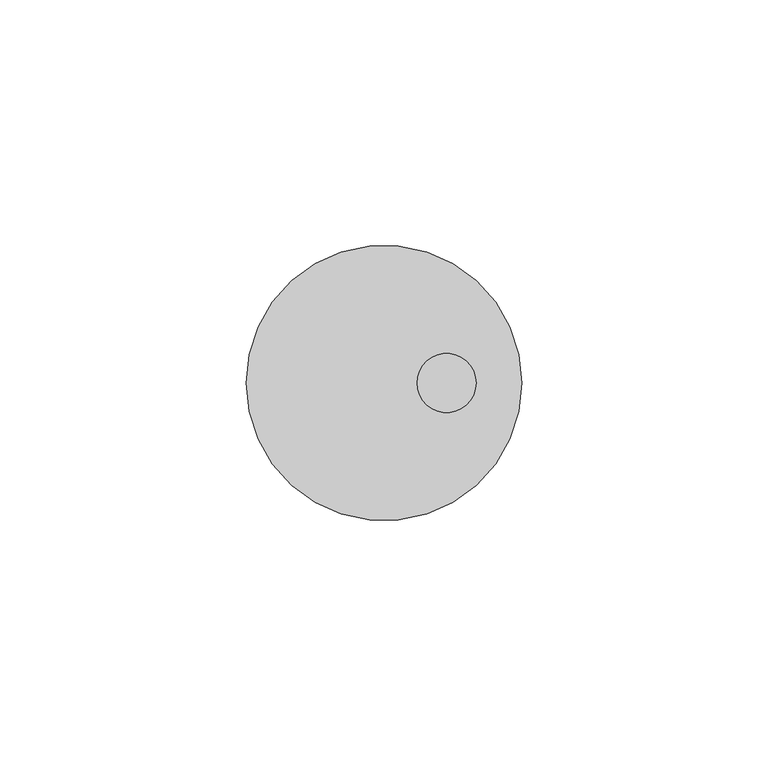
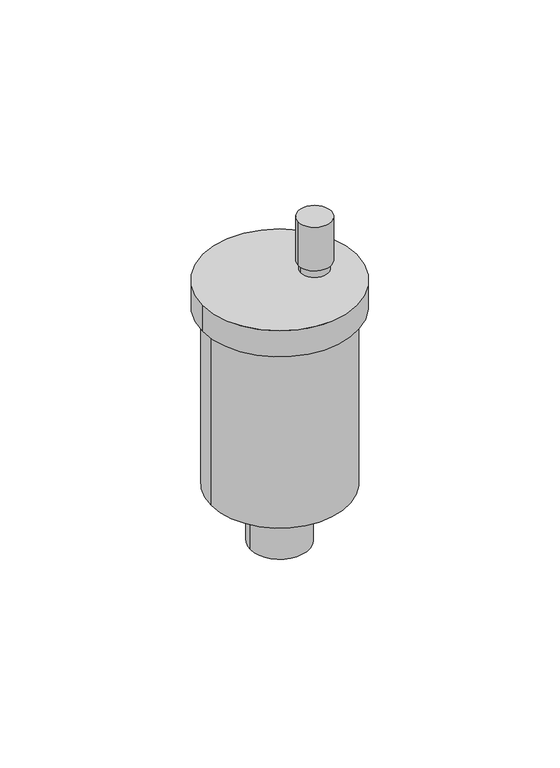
"""IFC4 building model written with IfcOpenShell, lengths in millimetres: valve geometry, 400_56_KOMF_Vlotterontluchter : 400_56_KOMF_Vlotterontluchter."""

from ifc_helpers import new_model, si_unit, point, frame, frame_2d, origin, origin_with_axes, origin_2d, place, context, project, spatial, circle_curve, trimmed, segment, composite_curve, outline, extrude, source, transform, mapped, element, save


def valve_2dd8f752(model_context):
    return source(origin(), model_context, "Body", "SweptSolid", [
        extrude(outline(composite_curve([segment(trimmed(circle_curve(frame_2d((12.7059589, 0.0)), 5.0), [point((7.7059589, 0.0))], [point((17.7059589, 0.0))], False, "CARTESIAN"), True, "CONTINUOUS"), segment(trimmed(circle_curve(frame_2d((12.7059589, 0.0)), 5.0), [point((17.7059589, 0.0))], [point((7.7059589, 0.0))], False, "CARTESIAN"), True, "CONTINUOUS")], self_intersect=False)), frame((0.0, 0.0, 100.0), z_axis=(0.0, 0.0, 1.0), x_axis=(1.0, 0.0, 0.0)), (0.0, 0.0, 1.0), 3.238022),
        extrude(outline(composite_curve([segment(trimmed(circle_curve(frame_2d((12.7059589, 0.0)), 6.0), [point((6.7059589, 0.0))], [point((18.7059589, 0.0))], False, "CARTESIAN"), True, "CONTINUOUS"), segment(trimmed(circle_curve(frame_2d((12.7059589, 0.0)), 6.0), [point((18.7059589, 0.0))], [point((6.7059589, 0.0))], False, "CARTESIAN"), True, "CONTINUOUS")], self_intersect=False)), frame((0.0, 0.0, 103.238022), z_axis=(0.0, 0.0, 1.0), x_axis=(1.0, 0.0, 0.0)), (0.0, 0.0, 1.0), 16.761978),
        extrude(outline(composite_curve([segment(trimmed(circle_curve(origin_2d(), 28.0), [point((-28.0, 0.0))], [point((28.0, 0.0))], False, "CARTESIAN"), True, "CONTINUOUS"), segment(trimmed(circle_curve(origin_2d(), 28.0), [point((28.0, 0.0))], [point((-28.0, 0.0))], False, "CARTESIAN"), True, "CONTINUOUS")], self_intersect=False)), frame((0.0, 0.0, 90.0), z_axis=(0.0, 0.0, 1.0), x_axis=(1.0, 0.0, 0.0)), (0.0, 0.0, 1.0), 10.0),
        extrude(outline(composite_curve([segment(trimmed(circle_curve(origin_2d(), 25.0), [point((-25.0, 0.0))], [point((25.0, 0.0))], False, "CARTESIAN"), True, "CONTINUOUS"), segment(trimmed(circle_curve(origin_2d(), 25.0), [point((25.0, 0.0))], [point((-25.0, 0.0))], False, "CARTESIAN"), True, "CONTINUOUS")], self_intersect=False)), frame((0.0, 0.0, 22.0), z_axis=(0.0, 0.0, 1.0), x_axis=(1.0, 0.0, 0.0)), (0.0, 0.0, 1.0), 68.0),
        extrude(outline(composite_curve([segment(trimmed(circle_curve(origin_2d(), 10.65), [point((-10.65, 0.0))], [point((10.65, 0.0))], False, "CARTESIAN"), True, "CONTINUOUS"), segment(trimmed(circle_curve(origin_2d(), 10.65), [point((10.65, 0.0))], [point((-10.65, 0.0))], False, "CARTESIAN"), True, "CONTINUOUS")], self_intersect=False)), origin_with_axes(), (0.0, 0.0, 1.0), 22.0),
    ])


if __name__ == "__main__":
    model = new_model("IFC4")
    model_context = context("Model", 3, world=origin())
    ifc_project = project(units=[si_unit("LENGTHUNIT", "METRE", prefix="MILLI")], contexts=[model_context])
    site = spatial("IfcSite", under=ifc_project)
    building = spatial("IfcBuilding", under=site)
    placement = place(None, origin())
    valve_shape = valve_2dd8f752(model_context)
    element("IfcValve", 1, ObjectType="400_56_KOMF_Vlotterontluchter : 400_56_KOMF_Vlotterontluchter", at=placement, inside=building, context=model_context, shape_type="MappedRepresentation", body=[
        mapped(valve_shape, transform((0.0, 0.0, 0.0), x_axis=(1.0, 0.0, 0.0), y_axis=(0.0, 1.0, 0.0), z_axis=(0.0, 0.0, 1.0))),
    ])
    save(model, "model.ifc")
